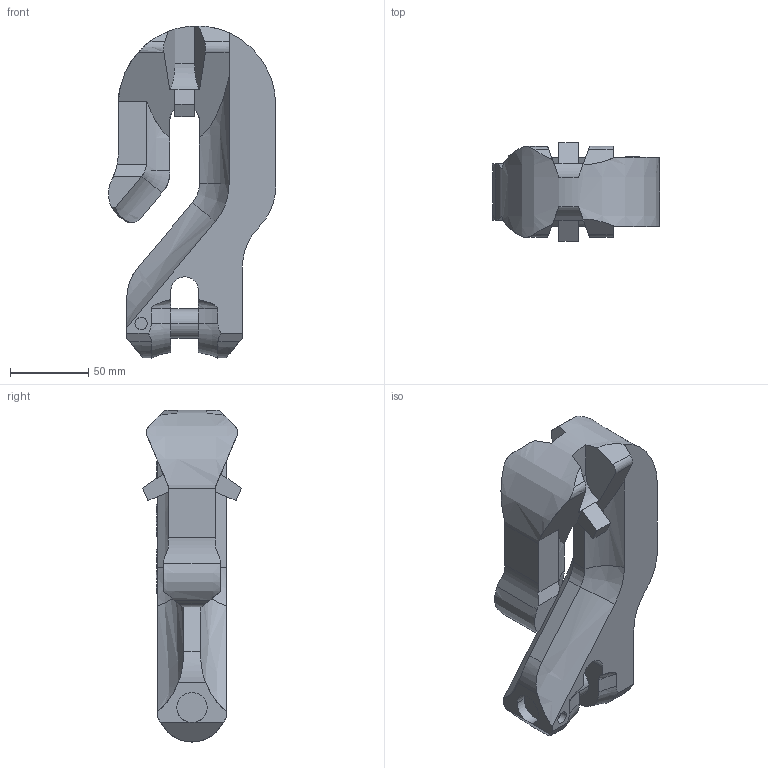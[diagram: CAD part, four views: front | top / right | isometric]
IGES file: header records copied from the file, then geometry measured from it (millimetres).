
Start section:  PTC IGES file: C:\Aktuell-Internet\CAD-Daten\3vvh16.igs
Global section: file name: C:\Aktuell-Internet\CAD-Daten\3vvh16.igs; native system: Pro/ENGINEER by Parametric Technology Corporation; preprocessor: 2001400; author: jakubetz; organization: Unknown; date: 030821.131103; units: millimetre
Bounding box: 106.76 x 63.05 x 211.93 mm (x, y, z)
Surface area: 63923.1 mm2 (no closed solid volume)
Topology: 0 solids, 0 shells, 336 faces, 1866 edges, 1866 vertices
Faces by surface type: bspline 284, revolution 52
